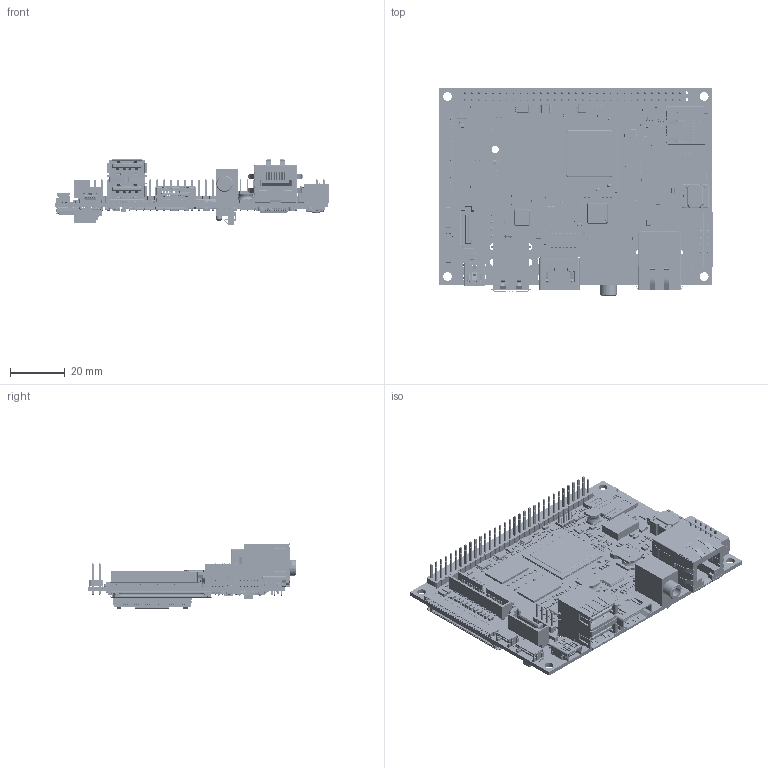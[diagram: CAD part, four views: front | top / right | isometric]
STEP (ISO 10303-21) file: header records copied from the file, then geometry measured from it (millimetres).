
FILE_DESCRIPTION(/* description */ ('PCB Design'),/* implementation_level */ '2;1');
FILE_NAME(/* name */ 'armStoneA9r3_REV200_3D',/* time_stamp */ '2022-04-22T13:35:43+02:00',/* author */ (''),/* organization */ (''),/* preprocessor_version */ 'ST-DEVELOPER v16',/* originating_system */ 'allegro_17.2S076',/* authorisation */ '');
FILE_SCHEMA (('AUTOMOTIVE_DESIGN { 1 0 10303 214 3 1 1 }'));
Products named in the file (437): ARMSTONEA9R3_REV200_3D; BOARD_OUTLINE; COMPONENTS; J-B2B-17X2-127MM-BOXD; LD-BOURNS-SRU5018; USBCHOCK4-0805-12-OLD; DFN8-065M-3X3; C0402; R0402; C1206; J-1MMD-30P-FI-X30S-HF; USB5B-MINI-DIP-WE-SD-54819; SOT-353; QFN32-05M-5X5-FS; QFN36-05M-6X6-FS; PH5-35MM-SJ1-3533NG; S-ATA-7-3M-5607-5102-SH; LD-8X8M-NRS8030; TP30SR34SMD; L0603; FUSE0805; LED0603_0402; XTALSD-2-302X105MM; TAN6032M; C0805; R1206; L1206; R0805; C0603; R0603; SOT23-132; SOT323-132; SOT23-GDS; CHOKE4-10X807MM; XTALD-4-302X205M; HEAD4; SOT23-5; TSSOP8-065M; MSOP8-065M; RN8DS12-0402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
Assembly tree (1654 placements, depth 6):
  ARMSTONEA9R3_REV200_3D
    BOARD_OUTLINE
    COMPONENTS
      J-B2B-17X2-127MM-BOXD
        20021521-00034XXLFC
      LD-BOURNS-SRU5018
        SRU5018
      USBCHOCK4-0805-12-OLD  x11
        USBCHOCK4-0805-12
          Component1
          Component2
          Component3
          Component4
          Component5
          Component6
          Component7
          Component8
      DFN8-065M-3X3
        User_Library-DFN8_3x3mm_.65mm
      C0402  x239
        ??????????2
      R0402  x164
        ????????6
      C1206  x3
        ??????????2
      J-1MMD-30P-FI-X30S-HF
        User_Library-FIX30SSLA
      USB5B-MINI-DIP-WE-SD-54819
        USB5b-mini-dip-we-sd-54819
          Component2
          Component3
          Component4
          Component5
          Component6
          Component7
          Component8
      SOT-353  x2
        User_Library-sot353
      QFN32-05M-5X5-FS
        User_Library-QFN-32-5x5_-_EQ
      QFN36-05M-6X6-FS
        ??????????1
      PH5-35MM-SJ1-3533NG
        26517
      S-ATA-7-3M-5607-5102-SH
        a0p7C1B2zvln
      LD-8X8M-NRS8030  x2
        Assem005
        Assem004
        Assem003
        Assem002
        Assem1
      TP30SR34SMD  x5
        1
      L0603  x7
        ??????????2
      FUSE0805
        MF-PSMF010X
      LED0603_0402  x7
        User_Library-SMD_LED_0603
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Bounding box: 100.11 x 76.04 x 24.51 mm (x, y, z)
Volume: 16088.7 mm3; surface area: 54780.3 mm2
Topology: 1754 solids, 1756 shells, 51101 faces, 132256 edges, 79623 vertices
Faces by surface type: plane 30431, cylinder 13934, sphere 4603, bspline 1349, torus 652, extrusion 91, cone 41
Full cylindrical faces by diameter (mm): 0.05 x184, 3 x1, 4 x2
Entity records: 1020683 total; most frequent: CARTESIAN_POINT 207686, DIRECTION 124051, ORIENTED_EDGE 117676, VECTOR 59488, LINE 59413, EDGE_CURVE 59023, VERTEX_POINT 38433, AXIS2_PLACEMENT_3D 33892
